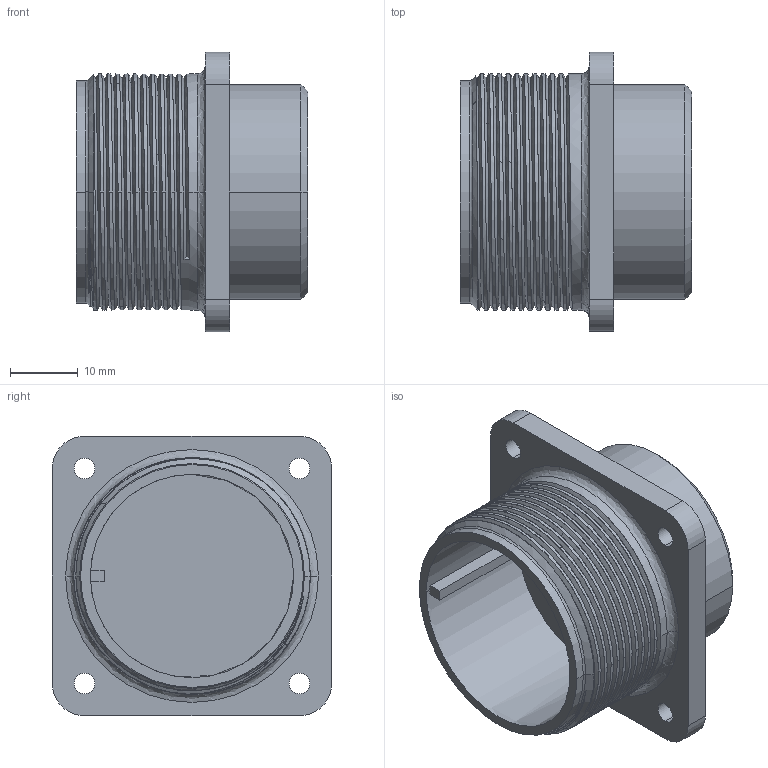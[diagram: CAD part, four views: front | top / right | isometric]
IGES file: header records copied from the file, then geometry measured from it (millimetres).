
Start section:  PTC IGES file: ms3102a_22_shell.igs
Global section: file name: ms3102a_22_shell.igs; native system: Creo Parametric by PTC Inc.; preprocessor: 2015290; author: j_piao; organization: Unknown; date: 20170623.142944; units: inch
Bounding box: 34.14 x 41.27 x 41.27 mm (x, y, z)
Surface area: 10341.6 mm2 (no closed solid volume)
Topology: 0 solids, 0 shells, 73 faces, 380 edges, 380 vertices
Faces by surface type: revolution 50, bspline 23
